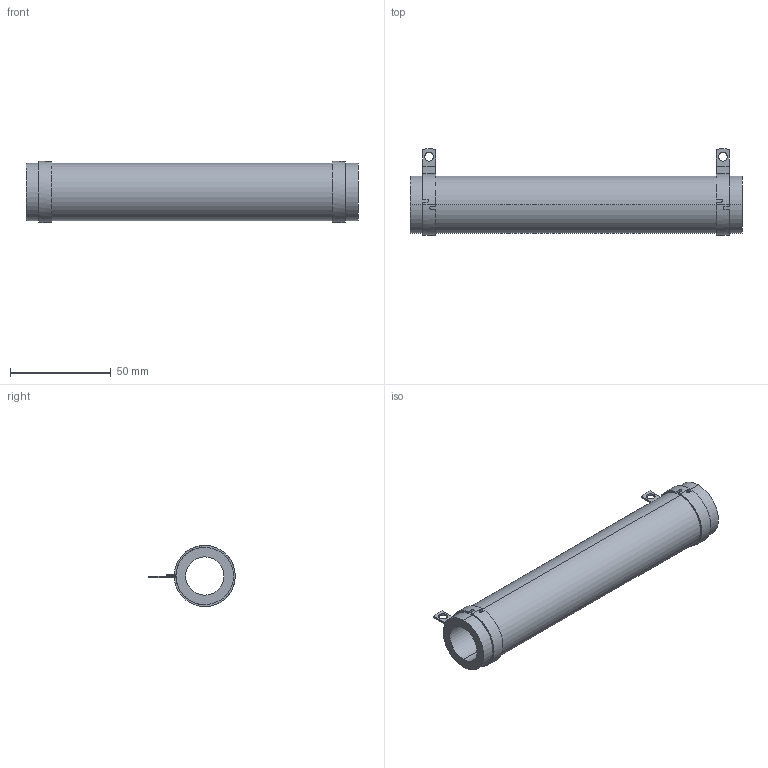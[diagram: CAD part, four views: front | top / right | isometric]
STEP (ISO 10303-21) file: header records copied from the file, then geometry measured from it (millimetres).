
FILE_DESCRIPTION (( 'STEP AP203' ), '1' );
FILE_NAME ('RBEF0240xxxxxKFB00.STEP', '2014-04-04T18:51:24', ( '' ), ( '' ), 'SwSTEP 2.0', 'SolidWorks 2012', '' );
FILE_SCHEMA (( 'CONFIG_CONTROL_DESIGN' ));
Length unit declared in the file: millimetre
Products named in the file (3): DAL013-06_DAL013-130; DAL15-160-XXX_DAL15-160-918-CLOSED; RBEF0240xxxxxKFB00
Assembly tree (3 placements, depth 2):
  RBEF0240xxxxxKFB00
    DAL013-06_DAL013-130
    DAL15-160-XXX_DAL15-160-918-CLOSED  x2
Bounding box: 165.1 x 43.03 x 30.35 mm (x, y, z)
Volume: 60003 mm3; surface area: 28521.1 mm2
Topology: 3 solids, 3 shells, 80 faces, 190 edges, 116 vertices
Faces by surface type: plane 42, cylinder 34, bspline 4
Entity records: 1692 total; most frequent: CARTESIAN_POINT 352, DIRECTION 229, ORIENTED_EDGE 202, EDGE_CURVE 101, AXIS2_PLACEMENT_3D 89, VERTEX_POINT 62, VECTOR 51, LINE 51
